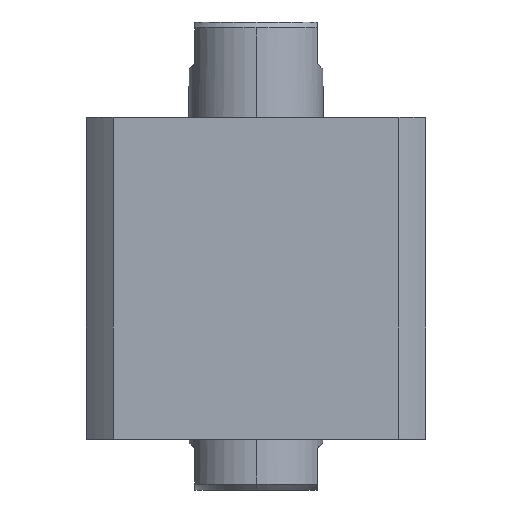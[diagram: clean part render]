
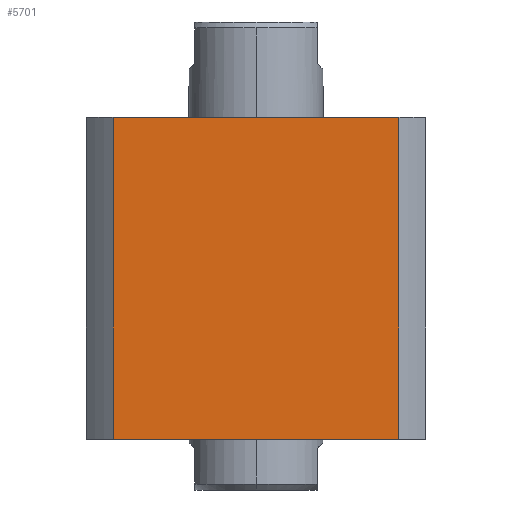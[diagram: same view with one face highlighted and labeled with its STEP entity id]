
A CAD part, front view. The second image highlights one B-rep face of the part: STEP entity #5701.
In plain terms, the highlighted planar face has unit normal (0, -1, 0) as drawn and (1, 0, 0) by its records, which use the part's own axes.
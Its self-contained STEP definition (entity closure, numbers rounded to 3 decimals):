
#657 = EDGE_CURVE ( 'NONE', #4628, #5075, #15763, .T. ) ;
#815 = VERTEX_POINT ( 'NONE', #12865 ) ;
#1433 = EDGE_CURVE ( 'NONE', #5075, #815, #10823, .T. ) ;
#1672 = ORIENTED_EDGE ( 'NONE', *, *, #1433, .F. ) ;
#1781 = ORIENTED_EDGE ( 'NONE', *, *, #657, .F. ) ;
#2005 = DIRECTION ( 'NONE',  ( -1., 0., 0. ) ) ;
#2133 = LINE ( 'NONE', #8169, #8213 ) ;
#2381 = CARTESIAN_POINT ( 'NONE',  ( 57., -47.971, 0. ) ) ;
#2675 = DIRECTION ( 'NONE',  ( 0., 0., -1. ) ) ;
#3160 = VECTOR ( 'NONE', #4534, 1000. ) ;
#4400 = CARTESIAN_POINT ( 'NONE',  ( 57., 57., 108. ) ) ;
#4534 = DIRECTION ( 'NONE',  ( 0., 0., 1. ) ) ;
#4567 = DIRECTION ( 'NONE',  ( 0., 1., 0. ) ) ;
#4628 = VERTEX_POINT ( 'NONE', #11543 ) ;
#5075 = VERTEX_POINT ( 'NONE', #12117 ) ;
#5521 = EDGE_CURVE ( 'NONE', #10992, #4628, #12857, .T. ) ;
#5701 = ADVANCED_FACE ( 'NONE', ( #15691 ), #6832, .F. ) ;
#6832 = PLANE ( 'NONE',  #7154 ) ;
#7154 = AXIS2_PLACEMENT_3D ( 'NONE', #4400, #2005, #10501 ) ;
#8169 = CARTESIAN_POINT ( 'NONE',  ( 57., 57., 0. ) ) ;
#8213 = VECTOR ( 'NONE', #4567, 1000. ) ;
#9082 = DIRECTION ( 'NONE',  ( 0., 1., 0. ) ) ;
#9408 = CARTESIAN_POINT ( 'NONE',  ( 57., -47.971, -192. ) ) ;
#10321 = CARTESIAN_POINT ( 'NONE',  ( 57., 57., 108. ) ) ;
#10501 = DIRECTION ( 'NONE',  ( 0., -1., 0. ) ) ;
#10823 = LINE ( 'NONE', #11199, #11216 ) ;
#10992 = VERTEX_POINT ( 'NONE', #2381 ) ;
#11199 = CARTESIAN_POINT ( 'NONE',  ( 57., 47.971, -192. ) ) ;
#11216 = VECTOR ( 'NONE', #2675, 1000. ) ;
#11543 = CARTESIAN_POINT ( 'NONE',  ( 57., -47.971, 108. ) ) ;
#11826 = EDGE_CURVE ( 'NONE', #10992, #815, #2133, .T. ) ;
#12117 = CARTESIAN_POINT ( 'NONE',  ( 57., 47.971, 108. ) ) ;
#12122 = EDGE_LOOP ( 'NONE', ( #13276, #14022, #1672, #1781 ) ) ;
#12156 = VECTOR ( 'NONE', #9082, 1000. ) ;
#12857 = LINE ( 'NONE', #9408, #3160 ) ;
#12865 = CARTESIAN_POINT ( 'NONE',  ( 57., 47.971, 0. ) ) ;
#13276 = ORIENTED_EDGE ( 'NONE', *, *, #5521, .F. ) ;
#14022 = ORIENTED_EDGE ( 'NONE', *, *, #11826, .T. ) ;
#15691 = FACE_OUTER_BOUND ( 'NONE', #12122, .T. ) ;
#15763 = LINE ( 'NONE', #10321, #12156 ) ;
